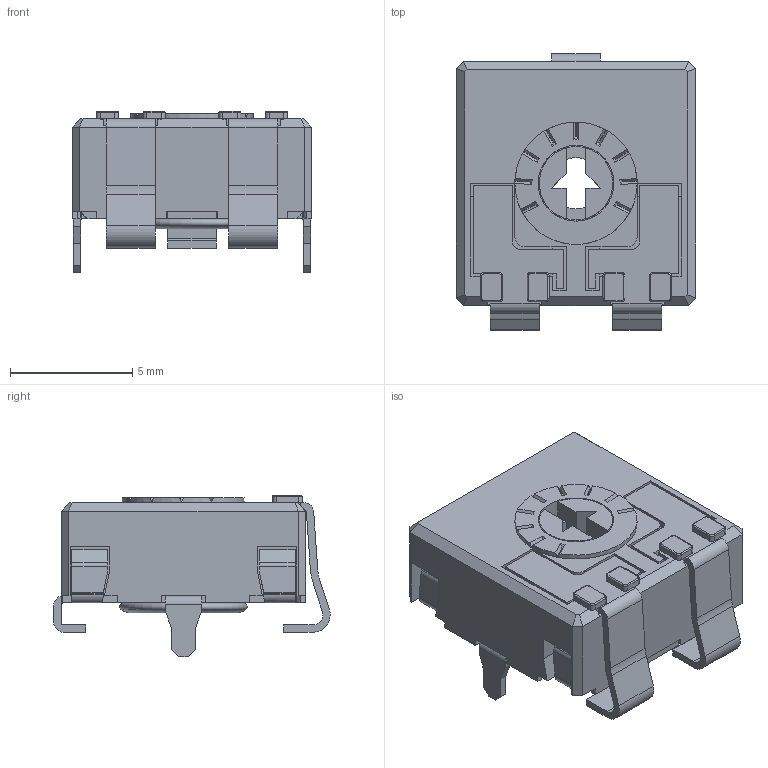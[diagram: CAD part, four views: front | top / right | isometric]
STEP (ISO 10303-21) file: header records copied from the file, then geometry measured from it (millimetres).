
FILE_DESCRIPTION(/* description */ (''),/* implementation_level */ '2;1');
FILE_NAME(/* name */ '\\SERVERACP\intercambio\Ignacio Santa Cecilia\Nueva WEB 2025\CA9 - CE9\CA9PVSMD CY.stp',/* time_stamp */ '2025-06-03T16:27:38+02:00',/* author */ ('CEM'),/* organization */ (''),/* preprocessor_version */ 'ST-DEVELOPER v17',/* originating_system */ 'Autodesk Inventor 2018',/* authorisation */ '');
FILE_SCHEMA (('AUTOMOTIVE_DESIGN { 1 0 10303 214 3 1 1 }'));
Length unit declared in the file: millimetre
Products named in the file (1): CA9PVSMD CY
Bounding box: 9.8 x 11.3 x 6.6 mm (x, y, z)
Volume: 250.9 mm3; surface area: 856.7 mm2
Topology: 2 solids, 2 shells, 550 faces, 1587 edges, 1013 vertices
Faces by surface type: plane 429, cylinder 86, torus 19, cone 16
Full cylindrical faces by diameter (mm): 3 x1, 3.1 x1, 4 x1, 4.8 x1, 5 x1
Entity records: 18118 total; most frequent: CARTESIAN_POINT 3203, ORIENTED_EDGE 3174, DIRECTION 2957, EDGE_CURVE 1587, LINE 1267, VECTOR 1267, VERTEX_POINT 1013, AXIS2_PLACEMENT_3D 845
